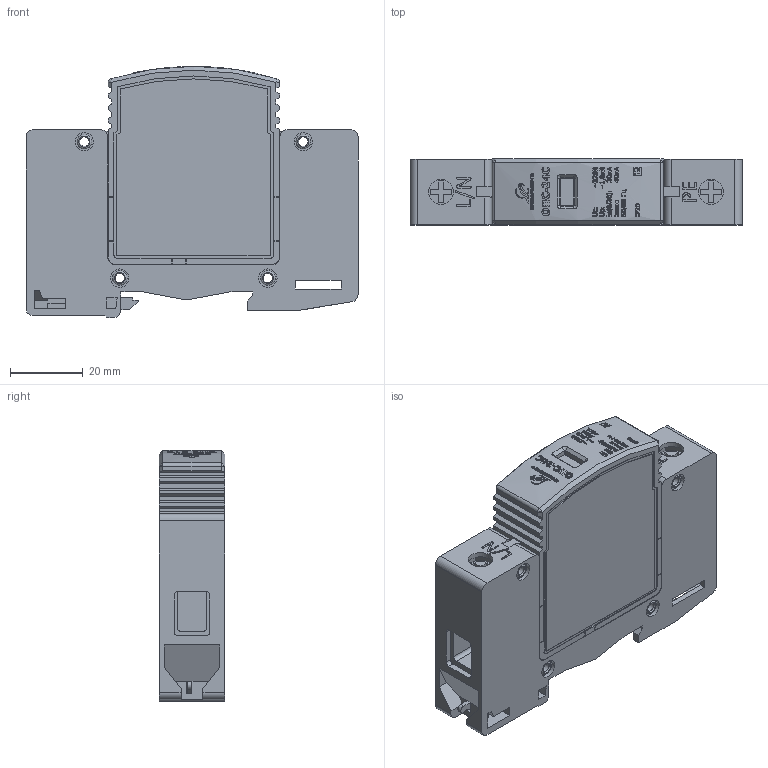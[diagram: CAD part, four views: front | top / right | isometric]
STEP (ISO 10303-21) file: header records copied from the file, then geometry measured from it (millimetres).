
FILE_DESCRIPTION(('STEP AP203'), '1');
FILE_NAME('ﾎﾏﾑ-24C-1P', '2026-08-06T12:20:32', ('Perepelkin'), (''), 'ASCON STEP Converter 1.6', 'ASCON Math Kernel', '');
FILE_SCHEMA(('CONFIG_CONTROL_DESIGN'));
Length unit declared in the file: millimetre
Assembly tree (2 placements, depth 2):
  (unnamed)
    (unnamed)
    (unnamed)
Bounding box: 91 x 18 x 68.8 mm (x, y, z)
Volume: 82611.4 mm3; surface area: 29890.4 mm2
Topology: 2 solids, 2 shells, 2244 faces, 6216 edges, 4119 vertices
Faces by surface type: plane 1195, extrusion 644, cylinder 375, torus 18, cone 8, bspline 4
Full cylindrical faces by diameter (mm): 2.6 x4, 5 x8, 6.8 x2, 9 x3
Entity records: 104267 total; most frequent: CARTESIAN_POINT 35864, ORIENTED_EDGE 12354, DIRECTION 8875, EDGE_CURVE 6177, VERTEX_POINT 4118, VECTOR 3893, LINE 3249, AXIS2_PLACEMENT_3D 2491
